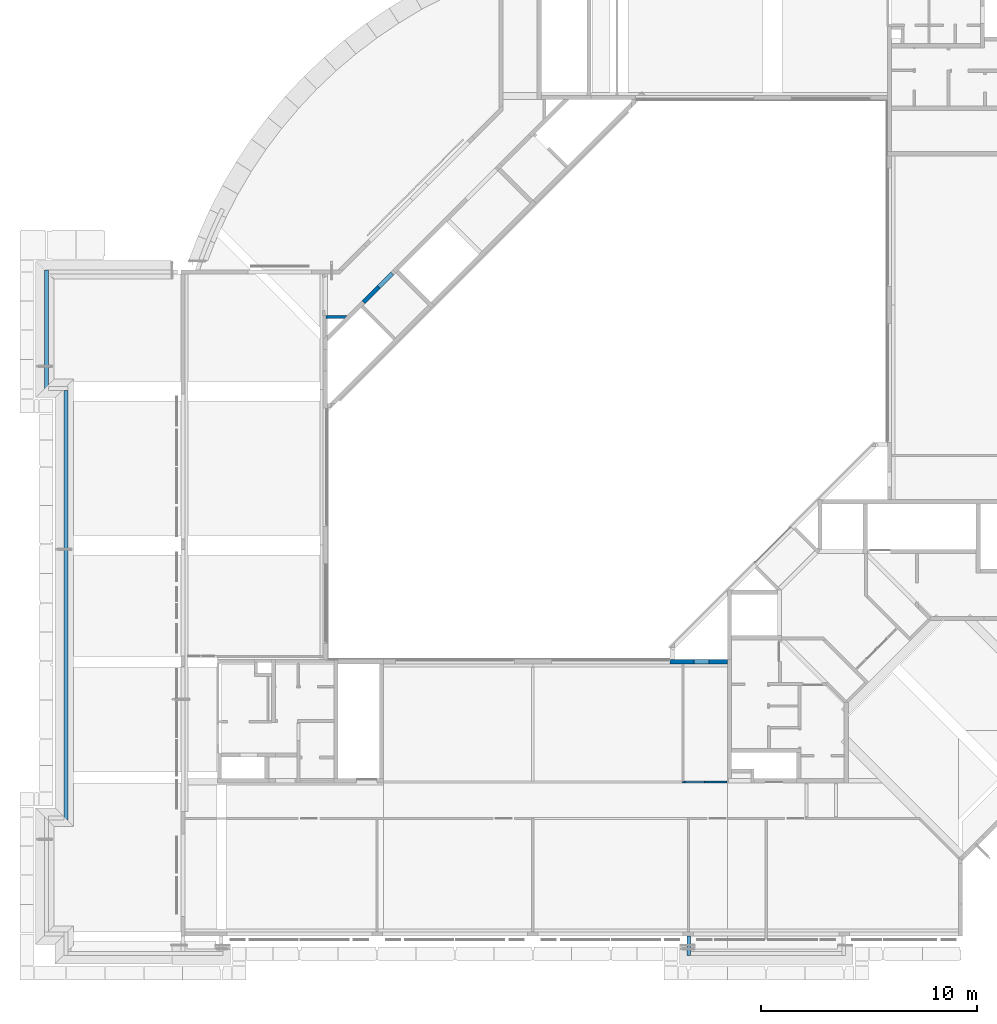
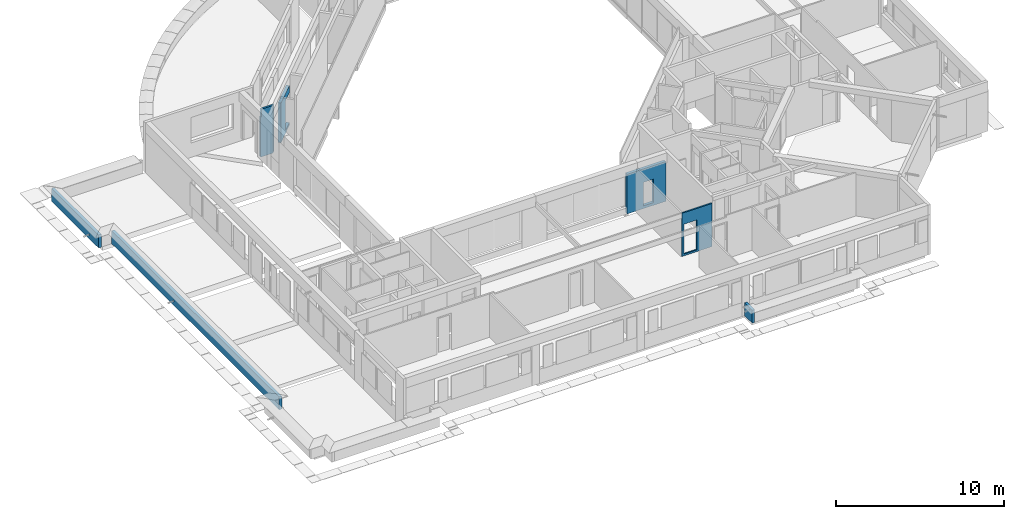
# One storey, part 21 of 38: 7 walls.
"""IFC4X3_ADD2 building model written with IfcOpenShell, lengths in millimetres."""

from ifc_helpers import new_model, si_unit, direction, frame, origin_with_axes, place, context, subcontext, project, spatial, faceted_brep, polygons, source, transform, mapped, type_object, type_shapes, element, save


model = new_model("IFC4X3_ADD2")

# Units and contexts
model_context = context("Model", 3, precision=1e-05, world=origin_with_axes(), true_north=direction((0.0, 1.0)))
body_context = subcontext(model_context, "Body", "Model", "MODEL_VIEW")
ifc_project = project(units=[si_unit("LENGTHUNIT", "METRE", prefix="MILLI"), si_unit("AREAUNIT", "SQUARE_METRE"), si_unit("VOLUMEUNIT", "CUBIC_METRE"), si_unit("PLANEANGLEUNIT", "RADIAN"), si_unit("TIMEUNIT", "SECOND"), si_unit("MASSUNIT", "GRAM")], contexts=[model_context])

# Site, building, storey
site_placement = place(None, origin_with_axes())
site = spatial("IfcSite", under=ifc_project, at=site_placement, Name="Site", CompositionType="ELEMENT")
building_placement = place(site_placement, origin_with_axes())
building = spatial("IfcBuilding", under=site, at=building_placement, Name="IFC Building Story")
storey_placement = place(building_placement, frame((0.0, 0.0, 10800.0), z_axis=(0.0, 0.0, 1.0), x_axis=(1.0, 0.0, 0.0)))
storey = spatial("IfcBuildingStorey", under=building, at=storey_placement, Name="030", Elevation=10800.0)

# Walls
wall_type = type_object("IfcWallType", Name="Basic Wall_BB_10.01.41#21_Gipskartonwand_EI60_43dB_MS100 _ 25.50.25_ 100 mm75", PredefinedType="NOTDEFINED")
shared_shape = source(origin_with_axes(), body_context, "Body", "Brep", [
    faceted_brep([(0.0, 37.5000000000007, 0.0), (0.0, 37.5000000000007, 3134.05453718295), (0.0, 50.0, 3134.05453718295), (0.0, 50.0, 0.0), (2085.00000003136, 37.5000000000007, 3134.05453718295), (2085.00000003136, 50.0, 3134.05453718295), (2085.00000003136, 37.5000000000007, 0.0), (2085.00000003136, 50.0, 0.0), (1045.000000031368, 37.5000000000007, 2294.054537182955), (1045.000000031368, 37.5000000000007, 129.0545371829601), (1045.000000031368, 50.0, 129.0545371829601), (1045.000000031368, 50.0, 2294.054537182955), (1935.000000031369, 37.5000000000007, 129.0545371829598), (1935.000000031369, 50.0, 129.0545371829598), (1935.000000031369, 37.5000000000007, 2294.054537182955), (1935.000000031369, 50.0, 2294.054537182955)], [[[0, 1, 2, 3]], [[1, 4, 5, 2]], [[4, 6, 7, 5]], [[6, 0, 3, 7]], [[8, 9, 10, 11]], [[9, 12, 13, 10]], [[12, 14, 15, 13]], [[14, 8, 11, 15]], [[9, 8, 14, 12], [1, 0, 6, 4]], [[15, 11, 10, 13], [7, 3, 2, 5]]], outer=[[True], [True], [True], [True], [True], [True], [True], [True], [False, True], [False, True]]),
    faceted_brep([(0.0, 24.9999999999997, 0.0), (0.0, 24.9999999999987, 3134.05453718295), (0.0, 37.5000000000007, 3134.05453718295), (0.0, 37.5000000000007, 0.0), (2072.50000003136, 24.9999999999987, 3134.05453718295), (2072.50000003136, 37.4999999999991, 3134.05453718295), (2072.50000003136, 24.9999999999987, 0.0), (2072.50000003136, 37.4999999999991, 0.0), (1045.000000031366, 24.9999999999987, 2294.054537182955), (1045.000000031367, 24.9999999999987, 129.0545371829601), (1045.000000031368, 37.5000000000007, 129.0545371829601), (1045.000000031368, 37.5000000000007, 2294.054537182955), (1935.000000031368, 24.9999999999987, 129.0545371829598), (1935.000000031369, 37.5000000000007, 129.0545371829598), (1935.000000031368, 24.9999999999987, 2294.054537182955), (1935.000000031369, 37.5000000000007, 2294.054537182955)], [[[0, 1, 2, 3]], [[1, 4, 5, 2]], [[4, 6, 7, 5]], [[6, 0, 3, 7]], [[8, 9, 10, 11]], [[9, 12, 13, 10]], [[12, 14, 15, 13]], [[14, 8, 11, 15]], [[9, 8, 14, 12], [1, 0, 6, 4]], [[15, 11, 10, 13], [7, 3, 2, 5]]], outer=[[True], [True], [True], [True], [True], [True], [True], [True], [False, True], [False, True]]),
    faceted_brep([(-1.567991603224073e-08, -24.9999999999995, 0.0), (-1.567991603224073e-08, -24.9999999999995, 3134.05453718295), (-1.567991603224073e-08, 25.0, 3134.05453718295), (-1.567991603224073e-08, 25.0, 0.0), (2060.00000001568, -24.9999999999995, 3134.05453718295), (2060.00000001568, 25.0, 3134.05453718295), (2060.00000001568, -24.9999999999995, 0.0), (2060.00000001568, 25.0, 0.0), (1045.000000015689, -24.9999999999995, 2294.054537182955), (1045.000000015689, -24.9999999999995, 129.0545371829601), (1045.000000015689, 25.0, 129.0545371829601), (1045.000000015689, 25.0, 2294.054537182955), (1935.000000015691, -24.9999999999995, 129.0545371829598), (1935.000000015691, 25.0, 129.0545371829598), (1935.000000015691, -24.9999999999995, 2294.054537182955), (1935.000000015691, 25.0, 2294.054537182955)], [[[0, 1, 2, 3]], [[1, 4, 5, 2]], [[4, 6, 7, 5]], [[6, 0, 3, 7]], [[8, 9, 10, 11]], [[9, 12, 13, 10]], [[12, 14, 15, 13]], [[14, 8, 11, 15]], [[9, 8, 14, 12], [1, 0, 6, 4]], [[15, 11, 10, 13], [7, 3, 2, 5]]], outer=[[True], [True], [True], [True], [True], [True], [True], [True], [False, True], [False, True]]),
    faceted_brep([(-1.568002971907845e-08, -37.5000000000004, 0.0), (-1.568002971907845e-08, -37.5000000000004, 3134.05453718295), (-1.567991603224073e-08, -24.9999999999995, 3134.05453718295), (-1.567991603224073e-08, -24.9999999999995, 0.0), (2010.00000001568, -37.5000000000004, 3134.05453718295), (2010.00000001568, -25.0, 3134.05453718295), (2010.00000001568, -37.5000000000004, 0.0), (2010.00000001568, -25.0, 0.0), (1045.000000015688, -37.5000000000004, 2294.054537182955), (1045.000000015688, -37.5000000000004, 129.0545371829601), (1045.000000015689, -24.9999999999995, 129.0545371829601), (1045.000000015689, -24.9999999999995, 2294.054537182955), (1935.000000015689, -37.5000000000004, 129.0545371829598), (1935.000000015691, -24.9999999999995, 129.0545371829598), (1935.000000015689, -37.5000000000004, 2294.054537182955), (1935.000000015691, -24.9999999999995, 2294.054537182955)], [[[0, 1, 2, 3]], [[1, 4, 5, 2]], [[4, 6, 7, 5]], [[6, 0, 3, 7]], [[8, 9, 10, 11]], [[9, 12, 13, 10]], [[12, 14, 15, 13]], [[14, 8, 11, 15]], [[9, 8, 14, 12], [1, 0, 6, 4]], [[15, 11, 10, 13], [7, 3, 2, 5]]], outer=[[True], [True], [True], [True], [True], [True], [True], [True], [False, True], [False, True]]),
    faceted_brep([(0.0, -50.0, 0.0), (1.13686837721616e-12, -50.0000000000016, 3134.05453718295), (1.13686837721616e-12, -37.5000000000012, 3134.05453718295), (0.0, -37.5000000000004, 0.0), (1997.500000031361, -50.0000000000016, 3134.05453718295), (1997.500000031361, -37.5000000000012, 3134.05453718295), (1997.500000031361, -50.0000000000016, 0.0), (1997.500000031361, -37.5000000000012, 0.0), (1045.000000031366, -50.0000000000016, 2294.054537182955), (1045.000000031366, -50.0000000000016, 129.0545371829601), (1045.000000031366, -37.5000000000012, 129.0545371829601), (1045.000000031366, -37.5000000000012, 2294.054537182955), (1935.000000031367, -50.0000000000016, 129.0545371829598), (1935.000000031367, -37.5000000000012, 129.0545371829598), (1935.000000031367, -50.0000000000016, 2294.054537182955), (1935.000000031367, -37.5000000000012, 2294.054537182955)], [[[0, 1, 2, 3]], [[1, 4, 5, 2]], [[4, 6, 7, 5]], [[6, 0, 3, 7]], [[8, 9, 10, 11]], [[9, 12, 13, 10]], [[12, 14, 15, 13]], [[14, 8, 11, 15]], [[9, 8, 14, 12], [1, 0, 6, 4]], [[15, 11, 10, 13], [7, 3, 2, 5]]], outer=[[True], [True], [True], [True], [True], [True], [True], [True], [False, True], [False, True]]),
])
type_shapes(wall_type, [shared_shape])
wall_1_placement = place(storey_placement, frame((-20115.0, 7035.0, -134.0545371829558), z_axis=(0.0, 0.0, 1.0), x_axis=(-1.0, 0.0, 0.0)))
element("IfcWall", 1, at=wall_1_placement, inside=storey, type_object=wall_type, Name="Basic Wall:BB_10.01.41#21_Gipskartonwand_EI60_43dB_MS100 / 25.50.25, 100 mm", ObjectType="Basic Wall:BB_10.01.41#21_Gipskartonwand_EI60_43dB_MS100 / 25.50.25, 100 mm", PredefinedType="PARTITIONING", context=body_context, shape_type="MappedRepresentation", body=[
    mapped(shared_shape, transform((0.0, 0.0, 0.0))),
])
wall_2_placement = place(storey_placement, frame((0.0, 0.0, -10800.0), z_axis=(0.0, 0.0, 1.0), x_axis=(1.0, 0.0, 0.0)))
element("IfcWall", 2, at=wall_2_placement, inside=storey, Name="Basic Wall:BB_XX_Wand uit metselwerk, 140 mm", ObjectType="Basic Wall:BB_XX_Wand uit metselwerk, 140 mm", PredefinedType="SOLIDWALL", context=body_context, shape_type="Tessellation", body=[
    polygons([(-38655.0, 28484.0, 10600.0), (-37811.83694395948, 28484.0, 10600.0), (-37811.83694395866, 28484.0, 14050.0), (-38605.00000000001, 28484.0, 14050.0), (-38605.00000000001, 28484.0, 13480.0), (-38655.0, 28484.0, 13480.0), (-37671.83694395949, 28624.0, 10600.0), (-38655.0, 28624.0, 10600.0), (-38655.0, 28624.0, 13289.99999999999), (-38655.0, 28624.0, 13480.0), (-38605.00000000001, 28624.0, 13480.0), (-38605.00000000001, 28624.0, 14050.0), (-37671.83694395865, 28624.0, 14050.0)], [[[5, 6, 1]], [[5, 1, 2]], [[5, 2, 3]], [[3, 4, 5]], [[11, 12, 13]], [[13, 9, 11]], [[9, 10, 11]], [[13, 7, 8]], [[13, 8, 9]], [[1, 8, 7, 2]], [[3, 13, 12, 4]], [[9, 8, 1]], [[9, 1, 6]], [[6, 10, 9]], [[2, 7, 13, 3]], [[11, 5, 4, 12]], [[5, 11, 10, 6]]]),
])
wall_3_placement = place(storey_placement, frame((0.0, 0.0, -10800.0), z_axis=(0.0, 0.0, 1.0), x_axis=(1.0, 0.0, 0.0)))
element("IfcWall", 3, at=wall_3_placement, inside=storey, Name="Basic Wall:BB_XX_Wand uit beton, 190 mm", ObjectType="Basic Wall:BB_XX_Wand uit beton, 190 mm", PredefinedType="SOLIDWALL", context=body_context, shape_type="Tessellation", body=[
    polygons([(-22755.0, 12505.004065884, 10600.0), (-20099.99999999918, 12505.004065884, 10600.0), (-20099.99999999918, 12505.004065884, 13480.0), (-22755.0, 12505.004065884, 13480.0), (-20939.99999999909, 12505.004065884, 12500.0), (-20939.99999999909, 12505.004065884, 10800.0), (-21639.99999999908, 12505.004065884, 10800.0), (-21639.99999999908, 12505.004065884, 12500.0), (-22755.0, 12695.004065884, 10600.0), (-22755.0, 12695.004065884, 13480.0), (-20099.99999999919, 12695.004065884, 13480.0), (-20099.99999999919, 12695.004065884, 10600.0), (-20939.99999999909, 12695.004065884, 12500.0), (-21639.99999999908, 12695.004065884, 12500.0), (-21639.99999999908, 12695.004065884, 10800.0), (-20939.99999999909, 12695.004065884, 10800.0)], [[[8, 5, 3]], [[8, 3, 4]], [[4, 1, 7]], [[4, 7, 8]], [[1, 2, 6]], [[1, 6, 7]], [[2, 3, 5]], [[2, 5, 6]], [[16, 13, 11]], [[16, 11, 12]], [[12, 9, 15]], [[12, 15, 16]], [[9, 10, 14]], [[9, 14, 15]], [[10, 11, 13]], [[10, 13, 14]], [[2, 1, 9, 12]], [[3, 2, 12, 11]], [[4, 3, 11, 10]], [[1, 4, 10, 9]], [[6, 5, 13, 16]], [[7, 6, 16, 15]], [[8, 7, 15, 14]], [[5, 8, 14, 13]]]),
])
wall_4_placement = place(storey_placement, frame((0.0, 0.0, -10800.0), z_axis=(0.0, 0.0, 1.0), x_axis=(1.0, 0.0, 0.0)))
element("IfcWall", 4, at=wall_4_placement, inside=storey, Name="Basic Wall:BB_XX_Wand uit beton, 190 mm", ObjectType="Basic Wall:BB_XX_Wand uit beton, 190 mm", PredefinedType="SOLIDWALL", context=body_context, shape_type="Tessellation", body=[
    polygons([(-51504.99999999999, 25155.0, 10600.0), (-51504.99999999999, 30535.00000000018, 10600.0), (-51504.99999999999, 30724.86980580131, 10600.0), (-51504.99999999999, 30724.86980580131, 11540.0), (-51504.99999999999, 25155.0, 11540.0), (-51504.99999999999, 26214.98225994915, 10891.3668487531), (-51504.99999999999, 26211.80916522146, 10904.25177041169), (-51504.99999999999, 26211.80916522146, 10917.52230982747), (-51504.99999999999, 26214.98225994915, 10930.40723148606), (-51504.99999999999, 26221.1440406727, 10942.15771057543), (-51504.99999999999, 26229.93640709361, 10952.09085196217), (-51504.99999999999, 26240.84837883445, 10959.62937757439), (-51504.99999999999, 26253.24579176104, 10964.33517570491), (-51504.99999999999, 26266.40815329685, 10965.93476247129), (-51504.99999999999, 26279.57051483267, 10964.33517570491), (-51504.99999999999, 26291.96792775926, 10959.62937757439), (-51504.99999999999, 26302.8798995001, 10952.09085196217), (-51504.99999999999, 26311.672265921, 10942.15771057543), (-51504.99999999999, 26317.83404664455, 10930.40723148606), (-51504.99999999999, 26321.00714137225, 10917.52230982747), (-51504.99999999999, 26321.00714137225, 10904.25177041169), (-51504.99999999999, 26317.83404664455, 10891.3668487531), (-51504.99999999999, 26311.672265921, 10879.61636966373), (-51504.99999999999, 26302.8798995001, 10869.68322827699), (-51504.99999999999, 26291.96792775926, 10862.14470266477), (-51504.99999999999, 26279.57051483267, 10857.43890453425), (-51504.99999999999, 26266.40815329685, 10855.83931776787), (-51504.99999999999, 26253.24579176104, 10857.43890453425), (-51504.99999999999, 26240.84837883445, 10862.14470266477), (-51504.99999999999, 26229.93640709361, 10869.68322827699), (-51504.99999999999, 26221.1440406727, 10879.61636966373), (-51694.99999999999, 30724.86980580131, 10600.0), (-51694.99999999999, 25155.0, 10600.0), (-51694.99999999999, 25155.0, 11540.0), (-51694.99999999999, 30724.86980580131, 11540.0), (-51694.99999999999, 26321.00714137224, 10896.335103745), (-51694.99999999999, 26321.00714137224, 10909.60564316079), (-51694.99999999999, 26317.83404664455, 10922.49056481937), (-51694.99999999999, 26311.672265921, 10934.24104390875), (-51694.99999999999, 26302.87989950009, 10944.17418529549), (-51694.99999999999, 26291.96792775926, 10951.7127109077), (-51694.99999999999, 26279.57051483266, 10956.41850903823), (-51694.99999999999, 26266.40815329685, 10958.01809580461), (-51694.99999999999, 26253.24579176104, 10956.41850903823), (-51694.99999999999, 26240.84837883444, 10951.7127109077), (-51694.99999999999, 26229.93640709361, 10944.17418529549), (-51694.99999999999, 26221.1440406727, 10934.24104390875), (-51694.99999999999, 26214.98225994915, 10922.49056481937), (-51694.99999999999, 26211.80916522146, 10909.60564316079), (-51694.99999999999, 26211.80916522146, 10896.335103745), (-51694.99999999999, 26214.98225994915, 10883.45018208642), (-51694.99999999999, 26221.1440406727, 10871.69970299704), (-51694.99999999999, 26229.93640709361, 10861.7665616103), (-51694.99999999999, 26240.84837883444, 10854.22803599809), (-51694.99999999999, 26253.24579176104, 10849.52223786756), (-51694.99999999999, 26266.40815329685, 10847.92265110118), (-51694.99999999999, 26279.57051483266, 10849.52223786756), (-51694.99999999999, 26291.96792775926, 10854.22803599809), (-51694.99999999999, 26302.87989950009, 10861.7665616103), (-51694.99999999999, 26311.672265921, 10871.69970299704), (-51694.99999999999, 26317.83404664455, 10883.45018208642)], [[[2, 3, 4]], [[31, 6, 1]], [[1, 30, 31]], [[1, 29, 30]], [[1, 28, 29]], [[1, 27, 28]], [[1, 26, 27]], [[26, 1, 2]], [[2, 25, 26]], [[2, 24, 25]], [[2, 23, 24]], [[2, 22, 23]], [[2, 21, 22]], [[2, 20, 21]], [[2, 4, 19]], [[2, 19, 20]], [[4, 18, 19]], [[4, 17, 18]], [[4, 16, 17]], [[4, 5, 16]], [[5, 15, 16]], [[5, 14, 15]], [[5, 13, 14]], [[5, 12, 13]], [[5, 11, 12]], [[5, 10, 11]], [[5, 1, 9]], [[5, 9, 10]], [[1, 8, 9]], [[1, 7, 8]], [[1, 6, 7]], [[61, 36, 32]], [[32, 60, 61]], [[32, 59, 60]], [[32, 58, 59]], [[32, 57, 58]], [[32, 56, 57]], [[32, 33, 56]], [[33, 55, 56]], [[33, 54, 55]], [[33, 53, 54]], [[33, 52, 53]], [[33, 51, 52]], [[33, 50, 51]], [[33, 49, 50]], [[33, 48, 49]], [[33, 34, 47]], [[33, 47, 48]], [[34, 46, 47]], [[34, 45, 46]], [[34, 44, 45]], [[34, 43, 44]], [[34, 42, 43]], [[34, 41, 42]], [[41, 34, 35]], [[35, 40, 41]], [[35, 39, 40]], [[35, 38, 39]], [[35, 32, 37]], [[35, 37, 38]], [[32, 36, 37]], [[2, 1, 33]], [[2, 33, 32]], [[32, 3, 2]], [[4, 3, 32, 35]], [[8, 7, 50, 49]], [[5, 4, 35, 34]], [[1, 5, 34, 33]], [[21, 20, 37, 36]], [[12, 45, 44, 13]], [[13, 44, 43, 14]], [[8, 49, 48, 9]], [[10, 47, 46, 11]], [[47, 10, 9, 48]], [[11, 46, 45, 12]], [[50, 7, 6, 51]], [[51, 6, 31, 52]], [[28, 55, 54, 29]], [[54, 53, 30, 29]], [[52, 31, 30, 53]], [[55, 28, 27, 56]], [[57, 56, 27, 26]], [[57, 26, 25, 58]], [[60, 59, 24, 23]], [[23, 22, 61, 60]], [[58, 25, 24, 59]], [[36, 61, 22, 21]], [[19, 18, 39, 38]], [[20, 19, 38, 37]], [[17, 16, 41, 40]], [[15, 14, 43, 42]], [[16, 15, 42, 41]], [[18, 17, 40, 39]]]),
])
wall_5_placement = place(storey_placement, frame((0.0, 0.0, -10800.0), z_axis=(0.0, 0.0, 1.0), x_axis=(1.0, 0.0, 0.0)))
element("IfcWall", 5, at=wall_5_placement, inside=storey, Name="Basic Wall:BB_XX_Wand uit beton, 170 mm", ObjectType="Basic Wall:BB_XX_Wand uit beton, 170 mm", PredefinedType="SOLIDWALL", context=body_context, shape_type="Tessellation", body=[
    polygons([(-21975.0, -95.0, 11540.0), (-21975.0, -95.0, 10600.0), (-21975.0, -995.000000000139, 10600.0), (-21975.0, -995.000000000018, 11540.0), (-21975.0, -629.735887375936, 11343.78303633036), (-21975.0, -623.57410665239, 11355.53351541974), (-21975.0, -620.401011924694, 11368.41843707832), (-21975.0, -620.401011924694, 11381.68897649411), (-21975.0, -623.57410665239, 11394.57389815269), (-21975.0, -629.735887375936, 11406.32437724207), (-21975.0, -638.528253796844, 11416.25751862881), (-21975.0, -649.44022553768, 11423.79604424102), (-21975.0, -661.837638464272, 11428.50184237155), (-21975.0, -675.000000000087, 11430.10142913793), (-21975.0, -688.162361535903, 11428.50184237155), (-21975.0, -700.559774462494, 11423.79604424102), (-21975.0, -711.471746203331, 11416.25751862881), (-21975.0, -720.264112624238, 11406.32437724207), (-21975.0, -726.425893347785, 11394.57389815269), (-21975.0, -729.59898807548, 11381.68897649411), (-21975.0, -729.598988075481, 11368.41843707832), (-21975.0, -726.425893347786, 11355.53351541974), (-21975.0, -720.264112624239, 11343.78303633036), (-21975.0, -711.471746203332, 11333.84989494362), (-21975.0, -700.559774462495, 11326.31136933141), (-21975.0, -688.162361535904, 11321.60557120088), (-21975.0, -675.000000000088, 11320.0059844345), (-21975.0, -661.837638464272, 11321.60557120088), (-21975.0, -649.44022553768, 11326.31136933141), (-21975.0, -638.528253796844, 11333.84989494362), (-21805.0, -995.000000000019, 11540.0), (-21805.0, -995.000000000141, 10600.0), (-21805.0, -95.0, 10600.0), (-21805.0, -95.0, 11540.0), (-21805.0, -726.425893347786, 11362.61684875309), (-21805.0, -729.598988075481, 11375.50177041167), (-21805.0, -729.598988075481, 11388.77230982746), (-21805.0, -726.425893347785, 11401.65723148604), (-21805.0, -720.264112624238, 11413.40771057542), (-21805.0, -711.471746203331, 11423.34085196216), (-21805.0, -700.559774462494, 11430.87937757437), (-21805.0, -688.162361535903, 11435.5851757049), (-21805.0, -675.000000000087, 11437.18476247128), (-21805.0, -661.837638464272, 11435.5851757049), (-21805.0, -649.44022553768, 11430.87937757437), (-21805.0, -638.528253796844, 11423.34085196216), (-21805.0, -629.735887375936, 11413.40771057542), (-21805.0, -623.57410665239, 11401.65723148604), (-21805.0, -620.401011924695, 11388.77230982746), (-21805.0, -620.401011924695, 11375.50177041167), (-21805.0, -623.57410665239, 11362.61684875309), (-21805.0, -629.735887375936, 11350.86636966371), (-21805.0, -638.528253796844, 11340.93322827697), (-21805.0, -649.44022553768, 11333.39470266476), (-21805.0, -661.837638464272, 11328.68890453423), (-21805.0, -675.000000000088, 11327.08931776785), (-21805.0, -688.162361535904, 11328.68890453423), (-21805.0, -700.559774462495, 11333.39470266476), (-21805.0, -711.471746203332, 11340.93322827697), (-21805.0, -720.264112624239, 11350.86636966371)], [[[30, 5, 1]], [[1, 2, 3]], [[1, 3, 29]], [[1, 29, 30]], [[3, 28, 29]], [[3, 27, 28]], [[3, 26, 27]], [[3, 25, 26]], [[3, 24, 25]], [[3, 4, 24]], [[4, 23, 24]], [[4, 22, 23]], [[4, 21, 22]], [[4, 20, 21]], [[4, 19, 20]], [[4, 18, 19]], [[4, 17, 18]], [[4, 16, 17]], [[4, 15, 16]], [[4, 14, 15]], [[4, 13, 14]], [[13, 4, 1]], [[1, 12, 13]], [[1, 11, 12]], [[1, 10, 11]], [[1, 9, 10]], [[1, 8, 9]], [[1, 7, 8]], [[1, 6, 7]], [[1, 5, 6]], [[60, 35, 31]], [[31, 59, 60]], [[59, 31, 32]], [[32, 58, 59]], [[32, 57, 58]], [[32, 56, 57]], [[32, 55, 56]], [[32, 54, 55]], [[32, 33, 34]], [[32, 34, 53]], [[32, 53, 54]], [[34, 52, 53]], [[34, 51, 52]], [[34, 50, 51]], [[34, 49, 50]], [[34, 48, 49]], [[34, 47, 48]], [[34, 46, 47]], [[34, 45, 46]], [[34, 44, 45]], [[34, 31, 44]], [[31, 43, 44]], [[31, 42, 43]], [[31, 41, 42]], [[31, 40, 41]], [[31, 39, 40]], [[31, 38, 39]], [[31, 37, 38]], [[31, 36, 37]], [[31, 35, 36]], [[3, 2, 33, 32]], [[1, 4, 31, 34]], [[2, 1, 34, 33]], [[37, 36, 21, 20]], [[3, 32, 31, 4]], [[50, 49, 8, 7]], [[41, 16, 15, 42]], [[42, 15, 14, 43]], [[37, 20, 19, 38]], [[39, 18, 17, 40]], [[18, 39, 38, 19]], [[40, 17, 16, 41]], [[21, 36, 35, 22]], [[22, 35, 60, 23]], [[57, 26, 25, 58]], [[25, 24, 59, 58]], [[23, 60, 59, 24]], [[26, 57, 56, 27]], [[28, 27, 56, 55]], [[28, 55, 54, 29]], [[5, 30, 53, 52]], [[52, 51, 6, 5]], [[29, 54, 53, 30]], [[7, 6, 51, 50]], [[48, 47, 10, 9]], [[49, 48, 9, 8]], [[46, 45, 12, 11]], [[44, 43, 14, 13]], [[45, 44, 13, 12]], [[47, 46, 11, 10]]]),
])
wall_6_placement = place(storey_placement, frame((0.0, 0.0, -10800.0), z_axis=(0.0, 0.0, 1.0), x_axis=(1.0, 0.0, 0.0)))
element("IfcWall", 6, at=wall_6_placement, inside=storey, Name="Basic Wall:BB_03.09.24#03_Wand uit metselwerk, 190 mm", ObjectType="Basic Wall:BB_03.09.24#03_Wand uit metselwerk, 190 mm", PredefinedType="SOLIDWALL", context=body_context, shape_type="Tessellation", body=[
    polygons([(-50795.00000000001, 25155.0, 10600.0), (-50795.00000000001, 5474.9999999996, 10600.0), (-50795.00000000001, 5284.9999999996, 10600.0), (-50795.00000000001, 5284.9999999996, 11540.0), (-50795.00000000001, 5474.9999999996, 11540.0), (-50795.00000000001, 25155.0, 11540.0), (-50795.00000000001, 17858.62103516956, 10902.97037345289), (-50795.00000000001, 17858.62103516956, 10915.21964404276), (-50795.00000000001, 17853.31088335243, 10926.25585549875), (-50795.00000000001, 17848.0007315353, 10937.29206695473), (-50795.00000000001, 17838.43216859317, 10944.92936224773), (-50795.00000000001, 17828.86360565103, 10952.56665754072), (-50795.00000000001, 17816.93180282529, 10955.29237667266), (-50795.00000000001, 17804.99999999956, 10958.0180958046), (-50795.00000000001, 17793.06819717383, 10955.29237667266), (-50795.00000000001, 17781.1363943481, 10952.56665754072), (-50795.00000000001, 17771.56783140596, 10944.92936224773), (-50795.00000000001, 17761.99926846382, 10937.29206695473), (-50795.00000000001, 17756.68911664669, 10926.25585549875), (-50795.00000000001, 17751.37896482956, 10915.21964404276), (-50795.0, 17751.37896482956, 10902.97037345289), (-50795.00000000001, 17751.37896482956, 10890.72110286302), (-50795.00000000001, 17756.68911664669, 10879.68489140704), (-50795.00000000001, 17761.99926846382, 10868.64867995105), (-50795.00000000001, 17771.56783140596, 10861.01138465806), (-50795.00000000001, 17781.1363943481, 10853.37408936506), (-50795.00000000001, 17792.66023733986, 10850.74156519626), (-50795.00000000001, 17804.99999999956, 10847.92265110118), (-50795.0, 17817.33976265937, 10850.74156519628), (-50795.00000000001, 17828.86360565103, 10853.37408936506), (-50795.0, 17838.43216859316, 10861.01138465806), (-50795.00000000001, 17848.0007315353, 10868.64867995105), (-50795.00000000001, 17853.31088335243, 10879.68489140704), (-50795.00000000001, 17858.62103516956, 10890.72110286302), (-50605.00000000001, 5284.9999999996, 10600.0), (-50605.00000000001, 25155.0, 10600.0), (-50605.00000000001, 25155.0, 11540.0), (-50605.00000000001, 5284.9999999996, 11540.0), (-50605.00000000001, 17751.37896482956, 10910.88704011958), (-50605.00000000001, 17751.37896482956, 10923.13631070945), (-50605.00000000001, 17756.68911664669, 10934.17252216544), (-50605.00000000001, 17761.99926846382, 10945.20873362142), (-50605.00000000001, 17771.56783140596, 10952.84602891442), (-50605.00000000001, 17781.1363943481, 10960.48332420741), (-50605.00000000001, 17792.66023734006, 10963.11584837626), (-50605.00000000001, 17804.99999999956, 10965.93476247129), (-50605.00000000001, 17817.3397626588, 10963.11584837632), (-50605.00000000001, 17828.86360565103, 10960.48332420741), (-50605.00000000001, 17838.43216859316, 10952.84602891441), (-50605.00000000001, 17848.0007315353, 10945.20873362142), (-50605.00000000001, 17853.31088335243, 10934.17252216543), (-50605.00000000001, 17858.62103516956, 10923.13631070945), (-50605.00000000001, 17858.62103516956, 10910.88704011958), (-50605.00000000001, 17858.62103516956, 10898.63776952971), (-50605.00000000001, 17853.31088335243, 10887.60155807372), (-50605.00000000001, 17848.0007315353, 10876.56534661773), (-50605.00000000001, 17838.43216859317, 10868.92805132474), (-50605.00000000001, 17828.86360565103, 10861.29075603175), (-50605.00000000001, 17816.93180282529, 10858.56503689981), (-50605.00000000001, 17804.99999999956, 10855.83931776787), (-50605.00000000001, 17793.06819717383, 10858.56503689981), (-50605.00000000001, 17781.1363943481, 10861.29075603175), (-50605.00000000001, 17771.56783140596, 10868.92805132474), (-50605.00000000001, 17761.99926846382, 10876.56534661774), (-50605.00000000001, 17756.68911664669, 10887.60155807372), (-50605.00000000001, 17751.37896482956, 10898.63776952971)], [[[2, 3, 4]], [[2, 4, 5]], [[34, 7, 1]], [[1, 33, 34]], [[1, 32, 33]], [[1, 31, 32]], [[1, 30, 31]], [[1, 29, 30]], [[1, 28, 29]], [[28, 1, 2]], [[2, 27, 28]], [[2, 26, 27]], [[2, 25, 26]], [[2, 24, 25]], [[2, 23, 24]], [[2, 22, 23]], [[2, 21, 22]], [[2, 5, 20]], [[2, 20, 21]], [[5, 19, 20]], [[5, 18, 19]], [[5, 17, 18]], [[5, 16, 17]], [[5, 15, 16]], [[5, 14, 15]], [[5, 6, 14]], [[6, 13, 14]], [[6, 12, 13]], [[6, 11, 12]], [[6, 10, 11]], [[6, 9, 10]], [[6, 8, 9]], [[6, 1, 7]], [[6, 7, 8]], [[66, 39, 35]], [[35, 65, 66]], [[35, 64, 65]], [[35, 63, 64]], [[35, 62, 63]], [[35, 61, 62]], [[35, 60, 61]], [[35, 36, 60]], [[36, 59, 60]], [[36, 58, 59]], [[36, 57, 58]], [[36, 56, 57]], [[36, 55, 56]], [[36, 54, 55]], [[36, 53, 54]], [[36, 37, 52]], [[36, 52, 53]], [[37, 51, 52]], [[37, 50, 51]], [[37, 49, 50]], [[37, 48, 49]], [[37, 47, 48]], [[37, 46, 47]], [[46, 37, 38]], [[38, 45, 46]], [[38, 44, 45]], [[38, 43, 44]], [[38, 42, 43]], [[38, 41, 42]], [[38, 40, 41]], [[38, 35, 39]], [[38, 39, 40]], [[2, 1, 36]], [[2, 36, 35]], [[35, 3, 2]], [[5, 4, 38]], [[38, 37, 6]], [[38, 6, 5]], [[36, 1, 6, 37]], [[21, 20, 39]], [[21, 39, 66]], [[66, 22, 21]], [[20, 40, 39]], [[4, 3, 35, 38]], [[53, 52, 8]], [[7, 34, 54]], [[54, 53, 8]], [[54, 8, 7]], [[15, 14, 46]], [[15, 46, 45]], [[45, 44, 16]], [[45, 16, 15]], [[19, 18, 41]], [[19, 41, 40]], [[40, 20, 19]], [[18, 42, 41]], [[17, 16, 44]], [[17, 44, 43]], [[43, 42, 18]], [[43, 18, 17]], [[65, 64, 23]], [[65, 23, 22]], [[22, 66, 65]], [[64, 24, 23]], [[63, 62, 26]], [[63, 26, 25]], [[25, 24, 64]], [[25, 64, 63]], [[61, 60, 28]], [[61, 28, 27]], [[27, 26, 62]], [[27, 62, 61]], [[29, 28, 60]], [[29, 60, 59]], [[59, 58, 30]], [[59, 30, 29]], [[31, 30, 58]], [[31, 58, 57]], [[57, 56, 32]], [[57, 32, 31]], [[49, 48, 12]], [[49, 12, 11]], [[11, 10, 50]], [[11, 50, 49]], [[33, 32, 56]], [[55, 54, 34]], [[34, 33, 56]], [[34, 56, 55]], [[9, 8, 52]], [[51, 50, 10]], [[10, 9, 52]], [[10, 52, 51]], [[13, 12, 48]], [[13, 48, 47]], [[47, 46, 14]], [[47, 14, 13]]]),
])
wall_7_placement = place(storey_placement, frame((0.0, 0.0, -10800.0), z_axis=(0.0, 0.0, 1.0), x_axis=(1.0, 0.0, 0.0)))
element("IfcWall", 7, at=wall_7_placement, inside=storey, Name="Basic Wall:BB_03.09.24#03_Wand uit metselwerk, 190 mm", ObjectType="Basic Wall:BB_03.09.24#03_Wand uit metselwerk, 190 mm", PredefinedType="SOLIDWALL", context=body_context, shape_type="Tessellation", body=[
    polygons([(-36863.76460711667, 29163.37175999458, 10600.0), (-35527.33279067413, 30499.80357643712, 10600.0), (-35527.33279067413, 30499.80357643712, 10795.00000000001), (-36156.65782593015, 29870.4785411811, 10795.00000000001), (-36156.65782593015, 29870.4785411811, 12960.00000000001), (-35527.33279067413, 30499.80357643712, 12960.00000000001), (-35527.33279067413, 30499.80357643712, 13480.0), (-36863.76460711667, 29163.37175999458, 13480.0), (-35661.68307909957, 30634.15386486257, 10600.0), (-36998.11489554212, 29297.72204842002, 10600.0), (-36998.11489554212, 29297.72204842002, 13480.0), (-35661.68307909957, 30634.15386486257, 13480.0), (-35661.68307909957, 30634.15386486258, 12960.00000000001), (-36291.00811435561, 30004.82882960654, 12960.00000000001), (-36291.00811435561, 30004.82882960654, 10795.00000000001), (-35661.68307909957, 30634.15386486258, 10795.00000000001)], [[[5, 6, 7]], [[5, 7, 8]], [[8, 1, 4]], [[8, 4, 5]], [[1, 2, 4]], [[2, 3, 4]], [[15, 16, 9]], [[15, 9, 10]], [[10, 11, 14]], [[10, 14, 15]], [[11, 12, 14]], [[12, 13, 14]], [[2, 1, 10, 9]], [[2, 9, 16, 3]], [[8, 7, 12, 11]], [[1, 8, 11, 10]], [[5, 14, 13, 6]], [[15, 4, 3, 16]], [[14, 5, 4, 15]], [[12, 7, 6, 13]]]),
])

save(model, "model.ifc")
